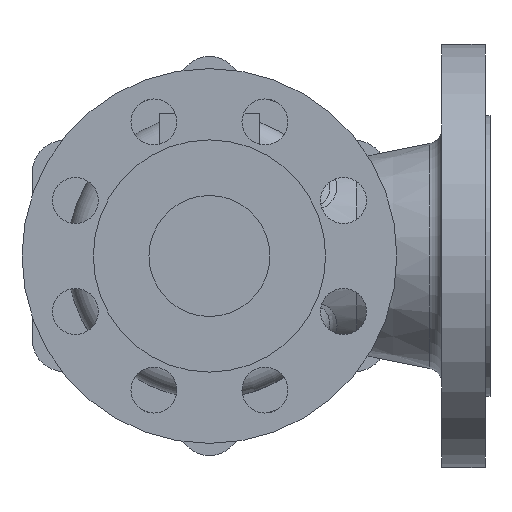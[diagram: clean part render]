
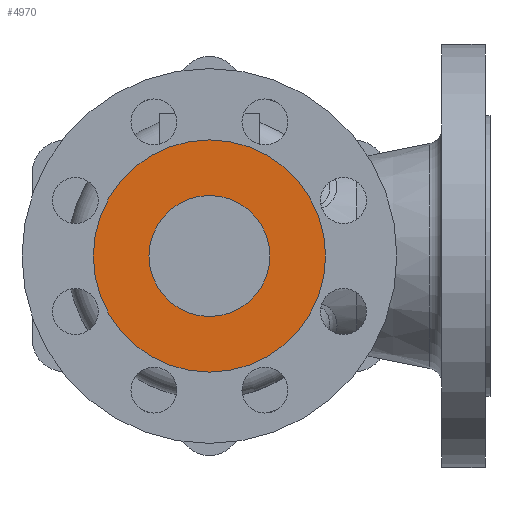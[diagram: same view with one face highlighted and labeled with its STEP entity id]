
A CAD part, front view. The second image highlights one B-rep face of the part: STEP entity #4970.
In plain terms, the highlighted planar face has unit normal (0, -1, 0).
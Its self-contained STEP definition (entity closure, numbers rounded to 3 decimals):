
#23 = CARTESIAN_POINT ( 'NONE',  ( 0., -107., 48. ) ) ;
#269 = AXIS2_PLACEMENT_3D ( 'NONE', #6476, #6440, #5997 ) ;
#337 = FACE_OUTER_BOUND ( 'NONE', #1607, .T. ) ;
#439 = EDGE_CURVE ( 'NONE', #6416, #4083, #1520, .T. ) ;
#499 = AXIS2_PLACEMENT_3D ( 'NONE', #6505, #1374, #1611 ) ;
#678 = DIRECTION ( 'NONE',  ( 0., 0., 1. ) ) ;
#951 = ORIENTED_EDGE ( 'NONE', *, *, #439, .F. ) ;
#1134 = CIRCLE ( 'NONE', #269, 25. ) ;
#1217 = VERTEX_POINT ( 'NONE', #23 ) ;
#1374 = DIRECTION ( 'NONE',  ( 0., -1., 0. ) ) ;
#1520 = CIRCLE ( 'NONE', #2384, 25. ) ;
#1607 = EDGE_LOOP ( 'NONE', ( #3505, #4928 ) ) ;
#1611 = DIRECTION ( 'NONE',  ( 0., 0., -1. ) ) ;
#1665 = CARTESIAN_POINT ( 'NONE',  ( 0., -107., -25. ) ) ;
#1681 = EDGE_LOOP ( 'NONE', ( #1715, #951 ) ) ;
#1715 = ORIENTED_EDGE ( 'NONE', *, *, #3871, .F. ) ;
#1846 = CIRCLE ( 'NONE', #3888, 48. ) ;
#2087 = CARTESIAN_POINT ( 'NONE',  ( 0., -107., -48. ) ) ;
#2267 = EDGE_CURVE ( 'NONE', #4981, #1217, #3155, .T. ) ;
#2292 = AXIS2_PLACEMENT_3D ( 'NONE', #2731, #3245, #678 ) ;
#2384 = AXIS2_PLACEMENT_3D ( 'NONE', #5026, #5060, #3128 ) ;
#2731 = CARTESIAN_POINT ( 'NONE',  ( 0., -107., 0. ) ) ;
#3128 = DIRECTION ( 'NONE',  ( 0., 0., -1. ) ) ;
#3155 = CIRCLE ( 'NONE', #2292, 48. ) ;
#3245 = DIRECTION ( 'NONE',  ( 0., 1., 0. ) ) ;
#3408 = FACE_BOUND ( 'NONE', #1681, .T. ) ;
#3505 = ORIENTED_EDGE ( 'NONE', *, *, #6048, .F. ) ;
#3616 = CARTESIAN_POINT ( 'NONE',  ( 0., -107., 25. ) ) ;
#3871 = EDGE_CURVE ( 'NONE', #4083, #6416, #1134, .T. ) ;
#3888 = AXIS2_PLACEMENT_3D ( 'NONE', #5938, #5436, #6408 ) ;
#4083 = VERTEX_POINT ( 'NONE', #1665 ) ;
#4458 = PLANE ( 'NONE',  #499 ) ;
#4928 = ORIENTED_EDGE ( 'NONE', *, *, #2267, .F. ) ;
#4970 = ADVANCED_FACE ( 'NONE', ( #3408, #337 ), #4458, .T. ) ;
#4981 = VERTEX_POINT ( 'NONE', #2087 ) ;
#5026 = CARTESIAN_POINT ( 'NONE',  ( 0., -107., 0. ) ) ;
#5060 = DIRECTION ( 'NONE',  ( 0., -1., 0. ) ) ;
#5436 = DIRECTION ( 'NONE',  ( 0., 1., 0. ) ) ;
#5938 = CARTESIAN_POINT ( 'NONE',  ( 0., -107., 0. ) ) ;
#5997 = DIRECTION ( 'NONE',  ( 0., 0., -1. ) ) ;
#6048 = EDGE_CURVE ( 'NONE', #1217, #4981, #1846, .T. ) ;
#6408 = DIRECTION ( 'NONE',  ( 0., 0., 1. ) ) ;
#6416 = VERTEX_POINT ( 'NONE', #3616 ) ;
#6440 = DIRECTION ( 'NONE',  ( 0., -1., 0. ) ) ;
#6476 = CARTESIAN_POINT ( 'NONE',  ( 0., -107., 0. ) ) ;
#6505 = CARTESIAN_POINT ( 'NONE',  ( 0., -107., 0. ) ) ;
